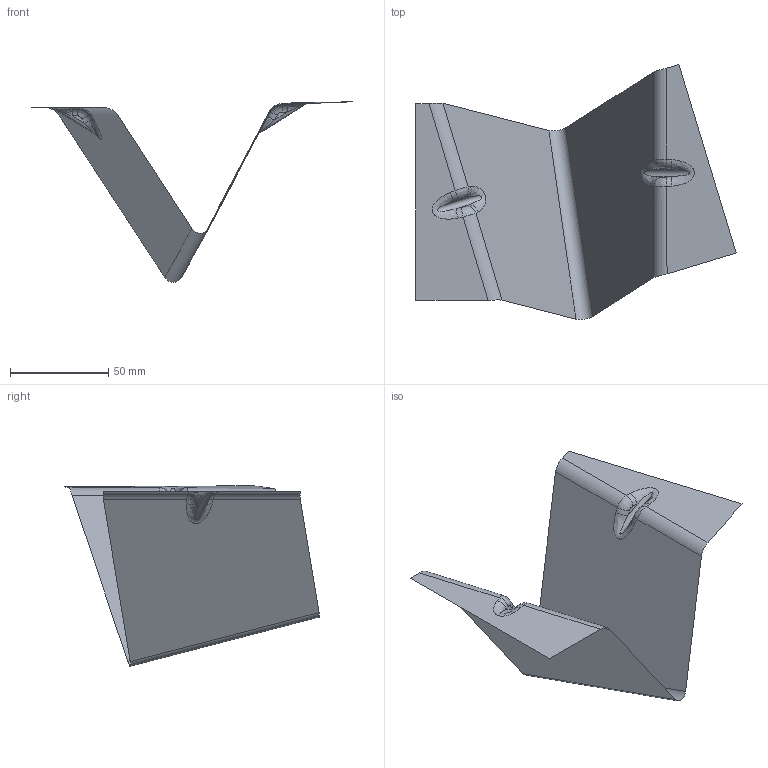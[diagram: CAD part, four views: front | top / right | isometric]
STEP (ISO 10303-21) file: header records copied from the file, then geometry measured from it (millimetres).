
FILE_DESCRIPTION(('CATIA V5 STEP Exchange'),'2;1');
FILE_NAME('C:\_Andres\UNIVERSIDAD\IQS\ASIGNATURAS\DAO\EXF\EXF-16172c\2inicio\Marra-Lopez_Llovet_Ej03_v19.stp','2017-03-05T19:32:20+00:00',('none'),('none'),'CATIA Version 5-6 Release 2014 SP1 HF18','CATIA V5 STEP AP203','none');
FILE_SCHEMA(('CONFIG_CONTROL_DESIGN'));
Length unit declared in the file: millimetre
Products named in the file (1): Marra-Lopez_Llovet_Ej03_v19
Bounding box: 162.56 x 129.39 x 91.62 mm (x, y, z)
Surface area: 24133.5 mm2 (no closed solid volume)
Topology: 0 solids, 1 shells, 31 faces, 78 edges, 48 vertices
Faces by surface type: cylinder 15, plane 8, bspline 8
Entity records: 2443 total; most frequent: CARTESIAN_POINT 1770, ORIENTED_EDGE 140, DIRECTION 90, EDGE_CURVE 78, VERTEX_POINT 48, VECTOR 40, LINE 40, ADVANCED_FACE 31
